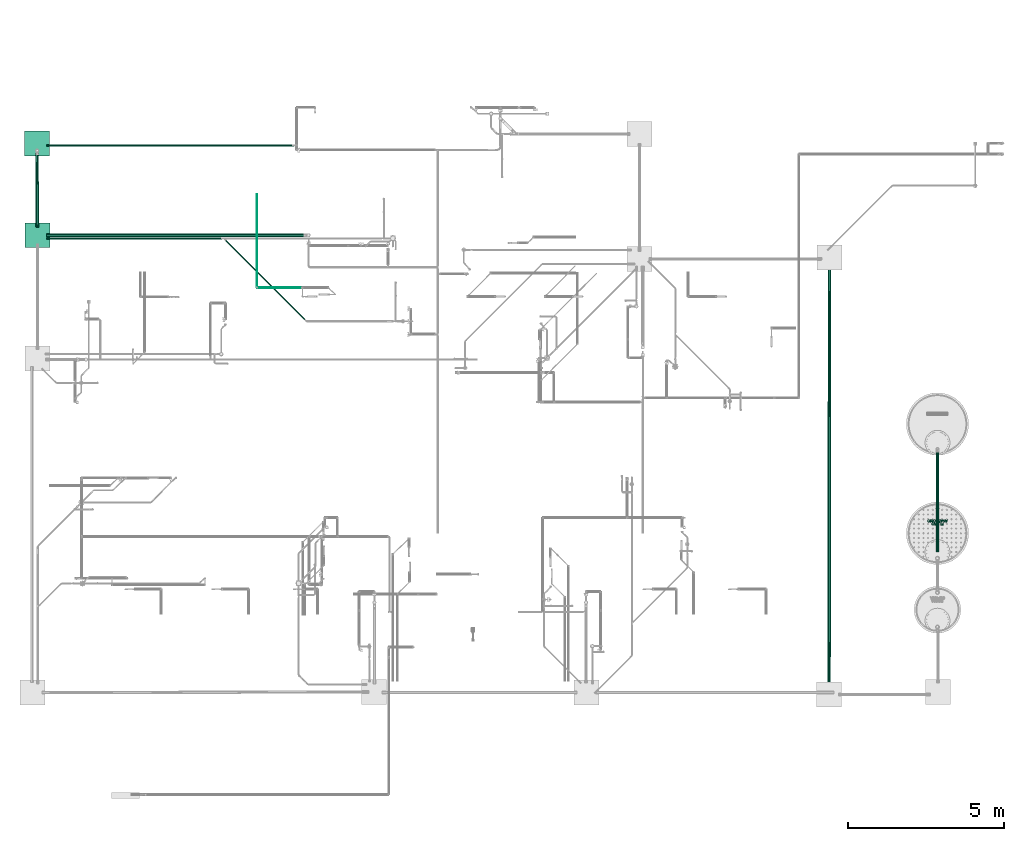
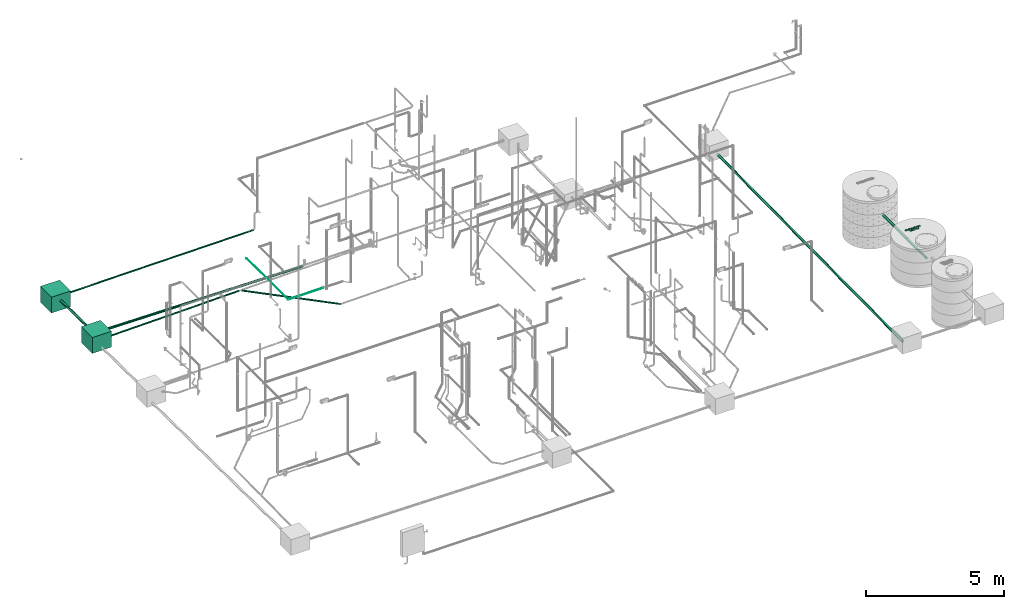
# One storey, part 19 of 589: 10 flow segments, 3 flow terminals.
"""IFC2X3 building model written with IfcOpenShell, lengths in millimetres."""

from ifc_helpers import new_model, entity, si_unit, converted_unit, derived_unit, direction, frame, frame_2d, origin, origin_2d_with_axis, place, context, subcontext, project, spatial, polyline, rectangle, circle, outline, extrude, source, transform, mapped, material, material_list, type_object, type_shapes, element, save


model = new_model("IFC2X3")

# Units and contexts
model_context = context("Model", 3, precision=0.01, world=origin(), true_north=direction((6.123031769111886e-17, 1.0)))
body_context = subcontext(model_context, "Body", "Model", "MODEL_VIEW")
ifc_project = project(units=[si_unit("LENGTHUNIT", "METRE", prefix="MILLI"), si_unit("AREAUNIT", "SQUARE_METRE"), si_unit("VOLUMEUNIT", "CUBIC_METRE"), converted_unit("PLANEANGLEUNIT", "DEGREE", entity("IfcRatioMeasure", 0.017453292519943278), si_unit("PLANEANGLEUNIT", "RADIAN"), dimensions=[0, 0, 0, 0, 0, 0, 0]), si_unit("MASSUNIT", "GRAM", prefix="KILO"), derived_unit("MASSDENSITYUNIT", [(si_unit("MASSUNIT", "GRAM", prefix="KILO"), 1), (si_unit("LENGTHUNIT", "METRE"), -3)]), derived_unit("IONCONCENTRATIONUNIT", [(si_unit("MASSUNIT", "GRAM", prefix="KILO"), 1), (si_unit("LENGTHUNIT", "METRE"), -3)]), derived_unit("MOMENTOFINERTIAUNIT", [(si_unit("LENGTHUNIT", "METRE"), 4)]), si_unit("TIMEUNIT", "SECOND"), si_unit("FREQUENCYUNIT", "HERTZ"), si_unit("THERMODYNAMICTEMPERATUREUNIT", "DEGREE_CELSIUS"), derived_unit("THERMALTRANSMITTANCEUNIT", [(si_unit("MASSUNIT", "GRAM", prefix="KILO"), 1), (si_unit("THERMODYNAMICTEMPERATUREUNIT", "KELVIN"), -1), (si_unit("TIMEUNIT", "SECOND"), -3)]), derived_unit("THERMALCONDUCTANCEUNIT", [(si_unit("MASSUNIT", "GRAM", prefix="KILO"), 1), (si_unit("THERMODYNAMICTEMPERATUREUNIT", "KELVIN"), -1), (si_unit("TIMEUNIT", "SECOND"), -3), (si_unit("LENGTHUNIT", "METRE"), 1)]), derived_unit("VOLUMETRICFLOWRATEUNIT", [(si_unit("LENGTHUNIT", "METRE"), 3), (si_unit("TIMEUNIT", "SECOND"), -1)]), derived_unit("MASSFLOWRATEUNIT", [(si_unit("MASSUNIT", "GRAM", prefix="KILO"), 1), (si_unit("TIMEUNIT", "SECOND"), -1)]), derived_unit("ROTATIONALFREQUENCYUNIT", [(si_unit("TIMEUNIT", "SECOND"), -1)]), si_unit("ELECTRICCURRENTUNIT", "AMPERE"), si_unit("ELECTRICVOLTAGEUNIT", "VOLT"), si_unit("POWERUNIT", "WATT"), si_unit("FORCEUNIT", "NEWTON", prefix="KILO"), si_unit("ILLUMINANCEUNIT", "LUX"), si_unit("LUMINOUSFLUXUNIT", "LUMEN"), si_unit("LUMINOUSINTENSITYUNIT", "CANDELA"), derived_unit("USERDEFINED", [(si_unit("MASSUNIT", "GRAM", prefix="KILO"), -1), (si_unit("LENGTHUNIT", "METRE"), -2), (si_unit("TIMEUNIT", "SECOND"), 3), (si_unit("LUMINOUSFLUXUNIT", "LUMEN"), 1)]), derived_unit("USERDEFINED", [(si_unit("MASSUNIT", "GRAM", prefix="KILO"), 1), (si_unit("TIMEUNIT", "SECOND"), -3), (si_unit("LENGTHUNIT", "METRE"), 3), (si_unit("ELECTRICCURRENTUNIT", "AMPERE"), -2)]), derived_unit("SOUNDPOWERUNIT", [(si_unit("MASSUNIT", "GRAM", prefix="KILO"), 1), (si_unit("TIMEUNIT", "SECOND"), -3), (si_unit("LENGTHUNIT", "METRE"), 2)]), derived_unit("SOUNDPRESSUREUNIT", [(si_unit("MASSUNIT", "GRAM", prefix="KILO"), 1), (si_unit("LENGTHUNIT", "METRE"), -1), (si_unit("TIMEUNIT", "SECOND"), -2)]), derived_unit("LINEARVELOCITYUNIT", [(si_unit("LENGTHUNIT", "METRE"), 1), (si_unit("TIMEUNIT", "SECOND"), -1)]), si_unit("PRESSUREUNIT", "PASCAL"), derived_unit("USERDEFINED", [(si_unit("MASSUNIT", "GRAM", prefix="KILO"), 1), (si_unit("LENGTHUNIT", "METRE"), -2), (si_unit("TIMEUNIT", "SECOND"), -2)]), derived_unit("LINEARFORCEUNIT", [(si_unit("MASSUNIT", "GRAM", prefix="KILO"), 1), (si_unit("TIMEUNIT", "SECOND"), -2)]), derived_unit("PLANARFORCEUNIT", [(si_unit("MASSUNIT", "GRAM", prefix="KILO"), 1), (si_unit("LENGTHUNIT", "METRE"), -1), (si_unit("TIMEUNIT", "SECOND"), -2)]), derived_unit("SPECIFICHEATCAPACITYUNIT", [(si_unit("THERMODYNAMICTEMPERATUREUNIT", "KELVIN"), -1), (si_unit("LENGTHUNIT", "METRE"), 2), (si_unit("TIMEUNIT", "SECOND"), -2)]), derived_unit("HEATINGVALUEUNIT", [(si_unit("LENGTHUNIT", "METRE"), 2), (si_unit("TIMEUNIT", "SECOND"), -2)]), derived_unit("VAPORPERMEABILITYUNIT", [(si_unit("LENGTHUNIT", "METRE"), -1), (si_unit("TIMEUNIT", "SECOND"), 1)]), derived_unit("DYNAMICVISCOSITYUNIT", [(si_unit("MASSUNIT", "GRAM", prefix="KILO"), 1), (si_unit("TIMEUNIT", "SECOND"), -1), (si_unit("LENGTHUNIT", "METRE"), -1)]), derived_unit("THERMALEXPANSIONCOEFFICIENTUNIT", [(si_unit("THERMODYNAMICTEMPERATUREUNIT", "KELVIN"), -1)]), derived_unit("MODULUSOFELASTICITYUNIT", [(si_unit("MASSUNIT", "GRAM", prefix="KILO"), 1), (si_unit("LENGTHUNIT", "METRE"), -1), (si_unit("TIMEUNIT", "SECOND"), -2)]), derived_unit("ISOTHERMALMOISTURECAPACITYUNIT", [(si_unit("LENGTHUNIT", "METRE"), 3), (si_unit("MASSUNIT", "GRAM", prefix="KILO"), -1)]), derived_unit("MOISTUREDIFFUSIVITYUNIT", [(si_unit("TIMEUNIT", "SECOND"), -1), (si_unit("LENGTHUNIT", "METRE"), 2)])], contexts=[model_context])

# Site, building, storey
site_placement = place(None, origin())
site = spatial("IfcSite", under=ifc_project, at=site_placement, Name="Default", CompositionType="ELEMENT")
building_placement = place(site_placement, origin())
building = spatial("IfcBuilding", under=site, at=building_placement, CompositionType="ELEMENT")
storey_placement = place(building_placement, frame((0.0, 0.0, 100.0)))
storey = spatial("IfcBuildingStorey", under=building, at=storey_placement, Name="TÉRREO", CompositionType="ELEMENT", Elevation=100.0)

# Flow segments
pipe_segment_type_1 = type_object("IfcPipeSegmentType", Name="Tipos de tubos:PVC Esgoto Série Normal", PredefinedType="NOTDEFINED")
flow_segment_1_placement = place(storey_placement, origin())
element("IfcFlowSegment", 1, at=flow_segment_1_placement, inside=storey, type_object=pipe_segment_type_1, Name="Tipos de tubos:PVC Esgoto Série Normal", ObjectType="Tipos de tubos:PVC Esgoto Série Normal", context=body_context, shape_type="SweptSolid", body=[
    extrude(circle(Radius=50.0, at=frame_2d((5.414335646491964e-13, -4.2297382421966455e-14), x_axis=(1.0, 0.0))), frame((-8480.677582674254, 3453.570317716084, -157.34838863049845), z_axis=(0.9999500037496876, 0.0, -0.009999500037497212), x_axis=(0.0, 1.0, 0.0)), (0.0, 0.0, 1.0), 8310.027963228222),
])
flow_segment_2_placement = place(storey_placement, origin())
element("IfcFlowSegment", 2, at=flow_segment_2_placement, inside=storey, type_object=pipe_segment_type_1, Name="Tipos de tubos:PVC Esgoto Série Normal", ObjectType="Tipos de tubos:PVC Esgoto Série Normal", context=body_context, shape_type="SweptSolid", body=[
    extrude(circle(Radius=25.0, at=origin_2d_with_axis()), frame((-8477.891094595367, 3355.620457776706, -435.84095407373), z_axis=(0.999800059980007, 0.0, 0.019996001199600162), x_axis=(0.0, 1.0, 0.0)), (0.0, 0.0, 1.0), 5604.78812695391),
])
flow_segment_3_placement = place(storey_placement, origin())
element("IfcFlowSegment", 3, at=flow_segment_3_placement, inside=storey, type_object=pipe_segment_type_1, Name="Tipos de tubos:PVC Esgoto Série Normal", ObjectType="Tipos de tubos:PVC Esgoto Série Normal", context=body_context, shape_type="SweptSolid", body=[
    extrude(circle(Radius=25.0, at=origin_2d_with_axis()), frame((-8480.742551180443, 6334.222132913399, -330.91757197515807), z_axis=(0.9999500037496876, 0.0, 0.009999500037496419), x_axis=(0.0, 1.0, 0.0)), (0.0, 0.0, 1.0), 7917.4731754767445),
])
flow_segment_4_placement = place(storey_placement, origin())
element("IfcFlowSegment", 4, at=flow_segment_4_placement, inside=storey, type_object=pipe_segment_type_1, Name="Tipos de tubos:PVC Esgoto Série Normal", ObjectType="Tipos de tubos:PVC Esgoto Série Normal", context=body_context, shape_type="SweptSolid", body=[
    extrude(circle(Radius=25.0, at=frame_2d((6.3116761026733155e-27, -1.531099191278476e-14), x_axis=(1.0, 0.0))), frame((-2772.031059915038, 3311.2163720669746, -321.9838664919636), z_axis=(0.7069654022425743, -0.706965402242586, 0.01999600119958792), x_axis=(-0.7071067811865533, -0.7071067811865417, 0.0)), (0.0, 0.0, 1.0), 3680.8013779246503),
])
flow_segment_5_placement = place(storey_placement, origin())
element("IfcFlowSegment", 5, at=flow_segment_5_placement, inside=storey, type_object=pipe_segment_type_1, Name="Tipos de tubos:PVC Esgoto Série Normal", ObjectType="Tipos de tubos:PVC Esgoto Série Normal", context=body_context, shape_type="SweptSolid", body=[
    extrude(circle(Radius=50.0, at=frame_2d((0.0, -1.1625103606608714e-41), x_axis=(1.0, 0.0))), frame((20055.667196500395, -5294.0021263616, -810.0), z_axis=(0.0, 1.0, 0.0), x_axis=(1.0, 0.0, 0.0)), (0.0, 0.0, 1.0), 1784.999999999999),
])
flow_segment_6_placement = place(storey_placement, origin())
element("IfcFlowSegment", 6, at=flow_segment_6_placement, inside=storey, type_object=pipe_segment_type_1, Name="Tipos de tubos:PVC Esgoto Série Normal", ObjectType="Tipos de tubos:PVC Esgoto Série Normal", context=body_context, shape_type="SweptSolid", body=[
    extrude(circle(Radius=50.0, at=frame_2d((-4.331468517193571e-12, 1.895017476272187e-12), x_axis=(1.0, 0.0))), frame((20055.667196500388, -6699.002126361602, -810.0), z_axis=(0.0, 1.0, 0.0), x_axis=(-1.0, 0.0, 0.0)), (0.0, 0.0, 1.0), 1400.0),
])
flow_segment_7_placement = place(storey_placement, origin())
element("IfcFlowSegment", 7, at=flow_segment_7_placement, inside=storey, type_object=pipe_segment_type_1, Name="Tipos de tubos:PVC Esgoto Série Normal", ObjectType="Tipos de tubos:PVC Esgoto Série Normal", context=body_context, shape_type="SweptSolid", body=[
    extrude(circle(Radius=50.0, at=frame_2d((-1.0828632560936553e-12, 3.3808944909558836e-14), x_axis=(1.0, 0.0))), frame((-8781.419732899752, 3704.590718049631, -276.19999999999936), z_axis=(-0.002674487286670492, 0.9999464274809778, -0.009999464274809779), x_axis=(-0.9999964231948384, -0.002674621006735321, 0.0)), (0.0, 0.0, 1.0), 2380.1275094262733),
])
flow_segment_8_placement = place(storey_placement, origin())
element("IfcFlowSegment", 8, at=flow_segment_8_placement, inside=storey, type_object=pipe_segment_type_1, Name="Tipos de tubos:PVC Esgoto Série Normal", ObjectType="Tipos de tubos:PVC Esgoto Série Normal", context=body_context, shape_type="SweptSolid", body=[
    extrude(circle(Radius=50.0, at=frame_2d((2.1657340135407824e-12, 6.768611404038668e-14), x_axis=(1.0, 0.0))), frame((16586.446880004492, -10978.720120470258, -684.1999999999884), z_axis=(0.0004756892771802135, 0.9999498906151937, 0.009999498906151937), x_axis=(-0.9999998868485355, 0.0004757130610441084, 0.0)), (0.0, 0.0, 1.0), 13420.672501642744),
])
pipe_segment_type_2 = type_object("IfcPipeSegmentType", Name="Tipos de tubos:PVC Marrom Soldável", PredefinedType="NOTDEFINED")
flow_segment_9_placement = place(storey_placement, origin())
element("IfcFlowSegment", 9, at=flow_segment_9_placement, inside=storey, type_object=pipe_segment_type_2, Name="Tipos de tubos:PVC Marrom Soldável", ObjectType="Tipos de tubos:PVC Marrom Soldável", context=body_context, shape_type="SweptSolid", body=[
    extrude(circle(Radius=12.5, at=frame_2d((0.0, -1.6919798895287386e-14), x_axis=(1.0, 0.0))), frame((-1729.6500105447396, 1769.1202008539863, -144.67096473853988), z_axis=(1.0, 0.0, 0.0), x_axis=(0.0, 1.0, 0.0)), (0.0, 0.0, 1.0), 1425.4060114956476),
])
flow_segment_10_placement = place(storey_placement, origin())
element("IfcFlowSegment", 10, at=flow_segment_10_placement, inside=storey, type_object=pipe_segment_type_2, Name="Tipos de tubos:PVC Marrom Soldável", ObjectType="Tipos de tubos:PVC Marrom Soldável", context=body_context, shape_type="SweptSolid", body=[
    extrude(circle(Radius=12.5, at=frame_2d((0.0, -8.459899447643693e-15), x_axis=(1.0, 0.0))), frame((-1745.05001054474, 1784.5202008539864, -144.67096473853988), z_axis=(0.0, 1.0, 0.0), x_axis=(1.0, 0.0, 0.0)), (0.0, 0.0, 1.0), 2984.6000000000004),
])

# Flow terminals
ifc_material_1 = material(Name="<Unnamed>")
ifc_material_2 = material(Name="Tijolo, Comum")
ifc_material_3 = material(Name=".CONCRETO")
ifc_material_list_1 = material_list([ifc_material_1, ifc_material_2, ifc_material_3])
distribution_element_type_1 = type_object("IfcDistributionElementType", Name="Caixa em Alvenaria_Rodrigo MEP:Caixa de Inspeçao de Esgoto 60x60cm - CI", material=ifc_material_list_1)
shared_shape_1 = source(origin(), body_context, "Body", "SweptSolid", [
    extrude(circle(Radius=50.0, at=frame_2d((1.6919798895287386e-14, -2.0303758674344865e-13), x_axis=(1.0, 0.0))), frame((297.0, -150.0, -550.0), z_axis=(1.0, 0.0, 0.0), x_axis=(0.0, -1.0, 0.0)), (0.0, 0.0, 1.0), 2.9999999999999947),
    extrude(circle(Radius=50.0, at=frame_2d((0.0, -2.0303758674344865e-13), x_axis=(1.0, 0.0))), frame((297.0, 150.0, -550.0), z_axis=(1.0, 0.0, 0.0), x_axis=(0.0, -1.0, 0.0)), (0.0, 0.0, 1.0), 2.9999999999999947),
    extrude(circle(Radius=50.0, at=frame_2d((0.0, -6.767919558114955e-14), x_axis=(1.0, 0.0))), frame((-300.0, 136.27378055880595, -550.0), z_axis=(1.0, 0.0, 0.0), x_axis=(0.0, 1.0, 0.0)), (0.0, 0.0, 1.0), 2.9999999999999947),
    extrude(circle(Radius=50.0, at=frame_2d((-1.6919798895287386e-14, -6.767919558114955e-14), x_axis=(1.0, 0.0))), frame((-300.0, -150.0, -550.0), z_axis=(1.0, 0.0, 0.0), x_axis=(0.0, 1.0, 0.0)), (0.0, 0.0, 1.0), 2.9999999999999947),
    extrude(circle(Radius=50.0, at=frame_2d((-1.6919798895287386e-14, -2.707167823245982e-13), x_axis=(1.0, 0.0))), frame((150.0, 297.0, -550.0), z_axis=(0.0, 1.0, 0.0), x_axis=(1.0, 0.0, 0.0)), (0.0, 0.0, 1.0), 2.9999999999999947),
    extrude(circle(Radius=50.0, at=frame_2d((0.0, -2.707167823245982e-13), x_axis=(1.0, 0.0))), frame((-150.0, 297.0, -550.0), z_axis=(0.0, 1.0, 0.0), x_axis=(1.0, 0.0, 0.0)), (0.0, 0.0, 1.0), 2.9999999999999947),
    extrude(circle(Radius=50.0, at=frame_2d((-1.307310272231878e-17, -2.707167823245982e-13), x_axis=(1.0, 0.0))), frame((297.0, 0.0, -550.0), z_axis=(1.0, 0.0, 0.0), x_axis=(0.0, -1.0, 0.0)), (0.0, 0.0, 1.0), 2.9999999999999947),
    extrude(circle(Radius=50.0, at=frame_2d((1.9003610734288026e-15, -6.767919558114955e-14), x_axis=(1.0, 0.0))), frame((-300.0, 0.0, -550.0), z_axis=(1.0, 0.0, 0.0), x_axis=(0.0, 1.0, 0.0)), (0.0, 0.0, 1.0), 2.9999999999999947),
    extrude(circle(Radius=50.0, at=frame_2d((-1.9105340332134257e-15, -2.707167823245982e-13), x_axis=(1.0, 0.0))), frame((0.0, 297.0, -550.0), z_axis=(0.0, 1.0, 0.0), x_axis=(1.0, 0.0, 0.0)), (0.0, 0.0, 1.0), 2.9999999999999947),
    extrude(outline(polyline([(-400.0, -400.0), (400.0, -400.0), (400.0, 400.0), (-400.0, 400.0), (-400.0, -400.0)]), holes=[polyline([(-300.0, 300.0), (300.0, 300.0), (300.0, -300.0), (-300.0, -300.0), (-300.0, 300.0)])]), frame((0.0, 0.0, -600.0)), (0.0, 0.0, 1.0), 599.9999999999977),
    extrude(rectangle(XDim=798.0000000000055, YDim=798.0, at=origin_2d_with_axis()), frame((0.0, 0.0, -700.0), z_axis=(0.0, 0.0, 1.0), x_axis=(-1.0, 0.0, 0.0)), (0.0, 0.0, 1.0), 99.99999999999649),
    extrude(circle(Radius=50.0, at=frame_2d((0.0, -2.707167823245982e-13), x_axis=(1.0, 0.0))), frame((0.0, -300.0, -550.0), z_axis=(0.0, 1.0, 0.0), x_axis=(1.0, 0.0, 0.0)), (0.0, 0.0, 1.0), 0.9999999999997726),
    extrude(rectangle(XDim=599.9999999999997, YDim=599.9999999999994, at=origin_2d_with_axis()), frame((0.0, 0.0, -50.51158969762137), z_axis=(0.0, 0.0, 1.0), x_axis=(0.0, 1.0, 0.0)), (0.0, 0.0, 1.0), 50.51158969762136),
])
type_shapes(distribution_element_type_1, [shared_shape_1])
flow_terminal_1_placement = place(storey_placement, frame((-8781.419732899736, 3453.5703177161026, 0.0), z_axis=(0.0, 0.0, 1.0), x_axis=(0.0, 1.0, 0.0)))
element("IfcFlowTerminal", 11, at=flow_terminal_1_placement, inside=storey, type_object=distribution_element_type_1, material=ifc_material_list_1, Name="Caixa em Alvenaria_Rodrigo MEP:Caixa de Inspeçao de Esgoto 60x60cm - CI", ObjectType="Caixa em Alvenaria_Rodrigo MEP:Caixa de Inspeçao de Esgoto 60x60cm - CI", context=body_context, shape_type="MappedRepresentation", body=[
    mapped(shared_shape_1, transform((0.0, 0.0, 0.0), scale=1.0)),
])
ifc_material_list_2 = material_list([ifc_material_2, ifc_material_3])
distribution_element_type_2 = type_object("IfcDistributionElementType", Name="Caixa de Gordura em Alvenaria_Rodrigo MEP:60x60cm - CG", material=ifc_material_list_2)
shared_shape_2 = source(origin(), body_context, "Body", "SweptSolid", [
    extrude(outline(polyline([(-400.0, -400.0), (400.0, -400.0), (400.0, 400.0), (-400.0, 400.0), (-400.0, -400.0)]), holes=[polyline([(-300.0, 300.0), (300.0, 300.0), (300.0, -300.0), (-300.0, -300.0), (-300.0, 300.0)])]), frame((0.0, 0.0, -600.0)), (0.0, 0.0, 1.0), 599.9999999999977),
    extrude(rectangle(XDim=799.9999999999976, YDim=799.999999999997, at=origin_2d_with_axis()), frame((0.0, 0.0, -700.0), z_axis=(0.0, 0.0, 1.0), x_axis=(-1.0, 0.0, 0.0)), (0.0, 0.0, 1.0), 99.99999999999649),
    extrude(rectangle(XDim=599.9999999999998, YDim=599.9999999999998, at=origin_2d_with_axis()), frame((0.0, 0.0, -50.51158969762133), z_axis=(0.0, 0.0, 1.0), x_axis=(0.0, 1.0, 0.0)), (0.0, 0.0, 1.0), 50.51158969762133),
])
type_shapes(distribution_element_type_2, [shared_shape_2])
flow_terminal_2_placement = place(storey_placement, frame((-8787.785353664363, 6394.222132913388, 0.0), z_axis=(0.0, 0.0, 1.0), x_axis=(-1.0, 0.0, 0.0)))
element("IfcFlowTerminal", 12, at=flow_terminal_2_placement, inside=storey, type_object=distribution_element_type_2, material=ifc_material_list_2, Name="Caixa de Gordura em Alvenaria_Rodrigo MEP:60x60cm - CG", ObjectType="Caixa de Gordura em Alvenaria_Rodrigo MEP:60x60cm - CG", context=body_context, shape_type="MappedRepresentation", body=[
    mapped(shared_shape_2, transform((0.0, 0.0, 0.0), scale=1.0)),
])
distribution_element_type_3 = type_object("IfcDistributionElementType", Name="Filtro Anaeróbio_Rodrigo MEP:Filtro Anaeróbio", material=ifc_material_1)
shared_shape_3 = source(origin(), body_context, "Body", "SweptSolid", [
    extrude(outline(polyline([(-23.87692307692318, -45.78461538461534), (-14.030769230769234, -45.78461538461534), (-14.030769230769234, -10.092307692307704), (22.89230769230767, -10.092307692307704), (22.89230769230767, -0.2461538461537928), (-14.0307692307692, -0.2461538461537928), (-14.0307692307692, 23.13846153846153), (29.046153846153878, 23.13846153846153), (29.046153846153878, 32.984615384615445), (-23.87692307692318, 32.984615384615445), (-23.87692307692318, -45.78461538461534)])), frame((294.7057692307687, -169.0749999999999, 0.0), z_axis=(0.0, 0.0, 1.0), x_axis=(0.0, 1.0, 0.0)), (0.0, 0.0, 1.0), 2.0),
    extrude(rectangle(XDim=9.846153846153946, YDim=78.76923076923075, at=origin_2d_with_axis()), frame((301.1057692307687, -120.33653846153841, 0.0), z_axis=(0.0, 0.0, 1.0), x_axis=(0.0, 1.0, 0.0)), (0.0, 0.0, 1.0), 2.0),
    extrude(outline(polyline([(-19.692307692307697, -29.538461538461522), (29.538461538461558, -29.538461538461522), (29.53846153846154, -19.692307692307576), (-9.846153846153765, -19.692307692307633), (-9.846153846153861, 49.23076923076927), (-19.692307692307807, 49.23076923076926), (-19.692307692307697, -29.538461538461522)])), frame((310.95192307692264, -76.0288461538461, 0.0), z_axis=(0.0, 0.0, 1.0), x_axis=(0.0, 1.0, 0.0)), (0.0, 0.0, 1.0), 2.0),
    extrude(outline(polyline([(-4.923076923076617, -54.15384615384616), (4.92307692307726, -54.15384615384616), (4.923076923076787, 14.769230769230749), (30.76923076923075, 14.769230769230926), (30.76923076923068, 24.615384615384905), (-30.76923076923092, 24.61538461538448), (-30.76923076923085, 14.769230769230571), (-4.923076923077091, 14.769230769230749), (-4.923076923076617, -54.15384615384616)])), frame((286.3365384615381, -10.798076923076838, 0.0), z_axis=(0.0, 0.0, 1.0), x_axis=(0.0, 1.0, 0.0)), (0.0, 0.0, 1.0), 2.0),
    extrude(outline(polyline([(-36.97165991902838, -35.30516194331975), (-27.125506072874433, -35.30516194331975), (-27.125506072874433, -0.8436234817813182), (-15.240890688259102, -0.8436234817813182), (-9.529352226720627, -1.1897773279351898), (-4.846659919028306, -3.064777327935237), (0.3552631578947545, -8.170546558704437), (7.759109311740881, -18.978238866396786), (18.00910931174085, -35.30516194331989), (29.45141700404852, -35.30516194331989), (16.3168016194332, -13.959008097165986), (8.336032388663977, -3.824392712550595), (2.739878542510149, 0.38714574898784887), (19.230263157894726, 7.714068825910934), (24.56680161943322, 21.906376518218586), (21.345647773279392, 33.81983805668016), (12.730263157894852, 41.339068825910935), (-3.029352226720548, 43.464068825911), (-36.97165991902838, 43.464068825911), (-36.97165991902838, -35.30516194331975)]), holes=[polyline([(-27.125506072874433, 9.002530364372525), (-27.125506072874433, 33.61791497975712), (-2.606275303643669, 33.61791497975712), (10.557186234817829, 30.21406882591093), (14.72064777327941, 21.540991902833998), (12.53795546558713, 14.85829959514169), (6.153340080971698, 10.396761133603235), (-5.087044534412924, 9.002530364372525), (-27.125506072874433, 9.002530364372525)])]), frame((305.1852226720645, 68.01973684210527, 0.0), z_axis=(0.0, 0.0, 1.0), x_axis=(0.0, 1.0, 0.0)), (0.0, 0.0, 1.0), 2.0),
    extrude(outline(polyline([(-5.014344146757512, -35.36286547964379), (15.101226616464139, -35.36286547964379), (32.30602401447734, -25.73698014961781), (41.9571839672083, -7.629411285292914), (41.499345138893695, 12.03878165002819), (30.646213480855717, 28.538720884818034), (10.899972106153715, 38.01353300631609), (-10.666676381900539, 38.26766729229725), (-27.75747829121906, 28.536693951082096), (-37.20199671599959, 10.598734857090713), (-37.87937636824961, -4.709820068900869), (-32.48615382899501, -18.284390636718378), (-21.403939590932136, -28.907798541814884), (-5.014344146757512, -35.36286547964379)]), holes=[polyline([(-2.7179707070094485, -25.787759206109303), (-16.61850646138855, -20.49098378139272), (-24.806929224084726, -12.29274693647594), (-28.169498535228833, -2.2819992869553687), (-27.592473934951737, 8.4523085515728), (-20.638909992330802, 21.68400788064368), (-7.964383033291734, 28.80801810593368), (8.622342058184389, 28.43412466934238), (20.88847863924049, 23.61360398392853), (29.009498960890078, 15.734198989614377), (32.868270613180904, 5.72547942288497), (32.34766118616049, -5.482984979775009), (27.98266168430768, -15.646289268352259), (20.205013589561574, -22.969369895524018), (9.73228131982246, -26.625451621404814), (-2.7179707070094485, -25.787759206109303)])]), frame((299.1205621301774, 141.71338757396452, 0.0), z_axis=(0.0, 0.0, 1.0), x_axis=(0.9746563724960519, 0.22370729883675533, 0.0)), (0.0, 0.0, 1.0), 2.0),
    extrude(outline(polyline([(-35.63221153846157, -25.84615384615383), (-25.22836538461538, -25.84615384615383), (-16.228365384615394, -1.2307692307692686), (16.213942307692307, -1.2307692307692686), (25.23317307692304, -25.846153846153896), (35.6370192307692, -25.846153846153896), (4.194711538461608, 52.92307692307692), (-4.189903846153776, 52.92307692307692), (-35.63221153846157, -25.84615384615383)]), holes=[polyline([(-12.612980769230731, 8.61538461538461), (-4.901442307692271, 29.673076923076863), (0.0024038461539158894, 43.076923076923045), (5.521634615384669, 27.980769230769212), (12.617788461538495, 8.61538461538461), (-12.612980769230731, 8.61538461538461)])]), frame((411.8749999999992, -289.56971153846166, 0.0), z_axis=(0.0, 0.0, 1.0), x_axis=(0.0, 1.0, 0.0)), (0.0, 0.0, 1.0), 2.0),
    extrude(outline(polyline([(-30.769230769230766, -39.386538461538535), (-20.92307692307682, -39.386538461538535), (-20.92307692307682, 23.036538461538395), (20.230769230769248, -39.3865384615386), (30.769230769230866, -39.3865384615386), (30.769230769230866, 39.38269230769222), (20.923076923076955, 39.38269230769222), (20.923076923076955, -23.021153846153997), (-20.230769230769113, 39.38269230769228), (-30.769230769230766, 39.38269230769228), (-30.769230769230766, -39.386538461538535)])), frame((398.33461538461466, -212.64423076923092, 0.0), z_axis=(0.0, 0.0, 1.0), x_axis=(0.0, 1.0, 0.0)), (0.0, 0.0, 1.0), 2.0),
    extrude(outline(polyline([(-35.632211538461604, -25.846153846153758), (-25.22836538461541, -25.846153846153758), (-16.228365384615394, -1.2307692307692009), (16.213942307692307, -1.2307692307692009), (25.23317307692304, -25.846153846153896), (35.6370192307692, -25.846153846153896), (4.194711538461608, 52.92307692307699), (-4.189903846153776, 52.92307692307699), (-35.632211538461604, -25.846153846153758)]), holes=[polyline([(-12.612980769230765, 8.615384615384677), (-4.901442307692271, 29.67307692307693), (0.0024038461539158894, 43.076923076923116), (5.521634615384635, 27.98076923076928), (12.617788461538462, 8.615384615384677), (-12.612980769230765, 8.615384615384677)])]), frame((411.8749999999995, -138.18509615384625, 0.0), z_axis=(0.0, 0.0, 1.0), x_axis=(0.0, 1.0, 0.0)), (0.0, 0.0, 1.0), 2.0),
    extrude(outline(polyline([(-31.384615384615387, -39.79487179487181), (26.461538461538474, -39.79487179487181), (26.46153846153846, -29.948717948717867), (-21.538461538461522, -29.948717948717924), (-21.53846153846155, -4.1025641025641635), (22.769230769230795, -4.102564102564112), (22.769230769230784, 5.743589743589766), (-21.538461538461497, 5.743589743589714), (-21.538461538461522, 29.12820512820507), (25.230769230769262, 29.128205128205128), (25.230769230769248, 38.974358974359), (-31.38461538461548, 38.97435897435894), (-31.384615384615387, -39.79487179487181)])), frame((397.9262820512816, -60.64423076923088, 0.0), z_axis=(0.0, 0.0, 1.0), x_axis=(0.0, 1.0, 0.0)), (0.0, 0.0, 1.0), 2.0),
    extrude(outline(polyline([(-36.9716599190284, -35.30516194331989), (-27.12550607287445, -35.30516194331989), (-27.12550607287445, -0.8436234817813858), (-15.240890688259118, -0.8436234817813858), (-9.529352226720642, -1.1897773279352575), (-4.846659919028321, -3.064777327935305), (0.35526315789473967, -8.170546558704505), (7.759109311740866, -18.978238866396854), (18.009109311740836, -35.30516194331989), (29.4514170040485, -35.30516194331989), (16.316801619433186, -13.959008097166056), (8.336032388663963, -3.8243927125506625), (2.739878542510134, 0.387145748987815), (19.23026315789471, 7.714068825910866), (24.566801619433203, 21.90637651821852), (21.345647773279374, 33.8198380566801), (12.730263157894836, 41.33906882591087), (-3.0293522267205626, 43.46406882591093), (-36.9716599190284, 43.46406882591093), (-36.9716599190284, -35.30516194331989)]), holes=[polyline([(-27.12550607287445, 9.002530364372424), (-27.12550607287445, 33.61791497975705), (-2.6062753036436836, 33.61791497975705), (10.557186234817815, 30.214068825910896), (14.720647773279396, 21.54099190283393), (12.537955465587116, 14.858299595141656), (6.153340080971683, 10.396761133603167), (-5.0870445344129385, 9.002530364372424), (-27.12550607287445, 9.002530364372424)])]), frame((402.41599190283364, 17.558198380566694, 0.0), z_axis=(0.0, 0.0, 1.0), x_axis=(0.0, 1.0, 0.0)), (0.0, 0.0, 1.0), 2.0),
    extrude(outline(polyline([(-8.615384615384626, -7.384615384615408), (-1.2307692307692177, -7.384615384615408), (11.076923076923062, 7.384615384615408), (-1.2307692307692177, 7.384615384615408), (-8.615384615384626, -7.384615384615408)])), frame((346.64423076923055, 95.0480769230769, 0.0), z_axis=(0.0, 0.0, 1.0), x_axis=(0.0, 1.0, 0.0)), (0.0, 0.0, 1.0), 1.9999999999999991),
    extrude(outline(polyline([(-41.40659340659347, -38.179258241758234), (-11.579670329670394, -38.179258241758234), (1.0453296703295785, -36.82348901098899), (9.61263736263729, -32.82348901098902), (15.353021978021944, -25.285027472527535), (17.67032967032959, -14.698489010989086), (14.276098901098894, -2.448489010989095), (4.574175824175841, 4.89766483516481), (12.56456043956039, 11.868818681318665), (15.208791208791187, 21.070741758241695), (12.064560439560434, 31.147664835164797), (3.3722527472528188, 38.272664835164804), (-11.348901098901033, 40.58997252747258), (-41.40659340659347, 40.58997252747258), (-41.40659340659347, -38.179258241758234)]), holes=[polyline([(-31.56043956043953, 8.589972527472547), (-31.56043956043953, 30.743818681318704), (-14.945054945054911, 30.743818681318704), (-2.2912087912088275, 29.714972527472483), (3.381868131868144, 25.91689560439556), (5.362637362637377, 19.493818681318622), (3.2376373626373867, 13.08035714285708), (-3.079670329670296, 9.436126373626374), (-13.579670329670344, 8.589972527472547), (-31.56043956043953, 8.589972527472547)]), polyline([(-31.56043956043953, -28.33310439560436), (-31.56043956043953, -1.2561813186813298), (-12.329670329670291, -1.2561813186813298), (-0.16620879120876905, -2.5734890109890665), (5.939560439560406, -7.140796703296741), (7.8241758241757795, -14.794642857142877), (6.218406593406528, -21.429258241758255), (2.122252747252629, -25.804258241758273), (-4.0604395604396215, -27.94848901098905), (-11.368131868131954, -28.33310439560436), (-31.56043956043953, -28.33310439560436)])]), frame((399.5418956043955, 185.68543956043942, 0.0), z_axis=(0.0, 0.0, 1.0), x_axis=(0.0, 1.0, 0.0)), (0.0, 0.0, 1.0), 2.0),
    extrude(rectangle(XDim=9.846153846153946, YDim=78.76923076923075, at=origin_2d_with_axis()), frame((398.3365384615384, 223.0480769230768, 0.0), z_axis=(0.0, 0.0, 1.0), x_axis=(0.0, 1.0, 0.0)), (0.0, 0.0, 1.0), 2.0),
    extrude(outline(polyline([(-5.014344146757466, -35.36286547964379), (15.101226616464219, -35.362865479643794), (32.3060240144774, -25.73698014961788), (41.95718396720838, -7.629411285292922), (41.49934513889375, 12.038781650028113), (30.64621348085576, 28.538720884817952), (10.899972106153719, 38.01353300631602), (-10.666676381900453, 38.26766729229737), (-27.75747829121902, 28.536693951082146), (-37.20199671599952, 10.598734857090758), (-37.87937636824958, -4.709820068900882), (-32.486153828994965, -18.284390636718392), (-21.40393959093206, -28.907798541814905), (-5.014344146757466, -35.36286547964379)]), holes=[polyline([(-2.717970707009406, -25.787759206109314), (-16.61850646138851, -20.49098378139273), (-24.806929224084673, -12.292746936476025), (-28.169498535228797, -2.2819992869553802), (-27.59247393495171, 8.452308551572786), (-20.638909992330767, 21.68400788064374), (-7.964383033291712, 28.80801810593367), (8.622342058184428, 28.4341246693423), (20.88847863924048, 23.613603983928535), (29.009498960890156, 15.734198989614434), (32.86827061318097, 5.72547942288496), (32.347661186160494, -5.482984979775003), (27.982661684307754, -15.646289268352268), (20.205013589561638, -22.969369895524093), (9.73228131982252, -26.625451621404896), (-2.717970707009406, -25.787759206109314)])]), frame((396.35133136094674, 279.5595414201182, 0.0), z_axis=(0.0, 0.0, 1.0), x_axis=(0.974656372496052, 0.22370729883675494, 0.0)), (0.0, 0.0, 1.0), 2.0),
    extrude(outline(polyline([(-5.014344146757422, -35.36286547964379), (15.101226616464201, -35.36286547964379), (32.30602401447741, -25.736980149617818), (41.95718396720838, -7.629411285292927), (41.49934513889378, 12.038781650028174), (30.6462134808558, 28.53872088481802), (10.899972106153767, 38.013533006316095), (-10.666676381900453, 38.26766729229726), (-27.75747829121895, 28.536693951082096), (-37.20199671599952, 10.598734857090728), (-37.87937636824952, -4.70982006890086), (-32.48615382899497, -18.284390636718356), (-21.403939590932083, -28.907798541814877), (-5.014344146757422, -35.36286547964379)]), holes=[polyline([(-2.7179707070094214, -25.787759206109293), (-16.61850646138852, -20.490983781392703), (-24.80692922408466, -12.292746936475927), (-28.169498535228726, -2.2819992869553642), (-27.592473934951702, 8.45230855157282), (-20.638909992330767, 21.684007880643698), (-7.964383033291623, 28.808018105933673), (8.62234205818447, 28.434124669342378), (20.888478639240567, 23.613603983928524), (29.00949896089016, 15.734198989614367), (32.86827061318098, 5.725479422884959), (32.347661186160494, -5.482984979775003), (27.982661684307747, -15.646289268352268), (20.20501358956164, -22.96936989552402), (9.73228131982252, -26.625451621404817), (-2.7179707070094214, -25.787759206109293)])]), frame((396.3513313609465, 91.25184911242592, 0.0), z_axis=(0.0, 0.0, 1.0), x_axis=(0.9746563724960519, 0.2237072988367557, 0.0)), (0.0, 0.0, 1.0), 1.9999999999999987),
    extrude(circle(Radius=49.999999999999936, at=frame_2d((0.0, -8.077722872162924e-14), x_axis=(1.0, 0.0))), frame((795.0, 0.0, -710.0), z_axis=(1.0, 0.0, 0.0), x_axis=(0.0, 0.0, -1.0)), (0.0, 0.0, 1.0), 4.999999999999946),
])
type_shapes(distribution_element_type_3, [shared_shape_3])
flow_terminal_3_placement = place(storey_placement, frame((20055.66719650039, -6094.002126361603, -100.0), z_axis=(0.0, 0.0, 1.0), x_axis=(0.0, 1.0, 0.0)))
element("IfcFlowTerminal", 13, at=flow_terminal_3_placement, inside=storey, type_object=distribution_element_type_3, material=ifc_material_1, Name="Filtro Anaeróbio_Rodrigo MEP:Filtro Anaeróbio", ObjectType="Filtro Anaeróbio_Rodrigo MEP:Filtro Anaeróbio", context=body_context, shape_type="MappedRepresentation", body=[
    mapped(shared_shape_3, transform((0.0, 0.0, 0.0), scale=1.0)),
])

save(model, "model.ifc")
